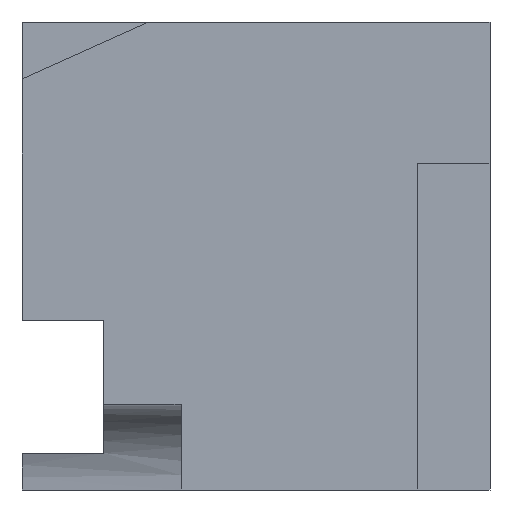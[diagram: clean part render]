
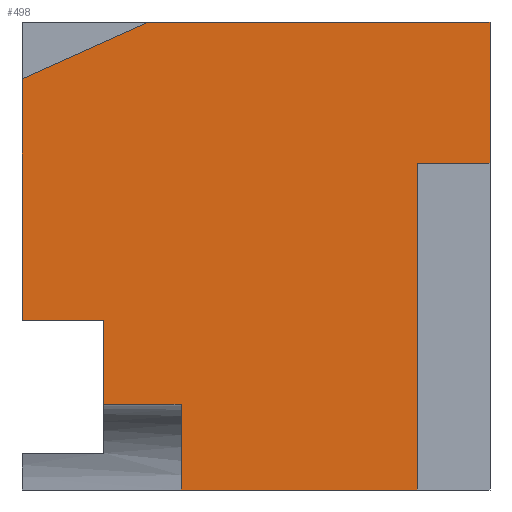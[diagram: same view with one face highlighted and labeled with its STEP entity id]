
A CAD part, front view. The second image highlights one B-rep face of the part: STEP entity #498.
In plain terms, the highlighted planar face has unit normal (0, -1, 0).
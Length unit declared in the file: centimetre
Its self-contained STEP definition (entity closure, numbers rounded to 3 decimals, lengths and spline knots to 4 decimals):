
#1 = VECTOR ( 'NONE', #620, 100. ) ;
#2 = EDGE_CURVE ( 'NONE', #341, #141, #22, .T. ) ;
#9 = ORIENTED_EDGE ( 'NONE', *, *, #384, .F. ) ;
#13 = VECTOR ( 'NONE', #190, 100. ) ;
#14 = VERTEX_POINT ( 'NONE', #75 ) ;
#22 = LINE ( 'NONE', #581, #372 ) ;
#25 = CARTESIAN_POINT ( 'NONE',  ( 0., 0., 362.3125 ) ) ;
#32 = VERTEX_POINT ( 'NONE', #270 ) ;
#35 = DIRECTION ( 'NONE',  ( 0., 1., 0. ) ) ;
#39 = EDGE_CURVE ( 'NONE', #518, #94, #323, .T. ) ;
#42 = ORIENTED_EDGE ( 'NONE', *, *, #39, .T. ) ;
#75 = CARTESIAN_POINT ( 'NONE',  ( 844.9066, 0., 0. ) ) ;
#78 = FACE_OUTER_BOUND ( 'NONE', #406, .T. ) ;
#94 = VERTEX_POINT ( 'NONE', #25 ) ;
#98 = DIRECTION ( 'NONE',  ( 0., 0., 1. ) ) ;
#99 = EDGE_CURVE ( 'NONE', #141, #398, #614, .T. ) ;
#101 = EDGE_CURVE ( 'NONE', #202, #398, #535, .T. ) ;
#102 = CARTESIAN_POINT ( 'NONE',  ( 1000., 0., 698.4609 ) ) ;
#113 = VECTOR ( 'NONE', #173, 100. ) ;
#117 = VECTOR ( 'NONE', #508, 100. ) ;
#119 = DIRECTION ( 'NONE',  ( -1., 0., 0. ) ) ;
#124 = CARTESIAN_POINT ( 'NONE',  ( 0., 0., 1000. ) ) ;
#130 = VECTOR ( 'NONE', #319, 100. ) ;
#135 = LINE ( 'NONE', #217, #113 ) ;
#138 = ORIENTED_EDGE ( 'NONE', *, *, #101, .F. ) ;
#139 = EDGE_CURVE ( 'NONE', #518, #431, #635, .T. ) ;
#141 = VERTEX_POINT ( 'NONE', #251 ) ;
#145 = LINE ( 'NONE', #428, #13 ) ;
#149 = DIRECTION ( 'NONE',  ( 1., 0., 0. ) ) ;
#151 = EDGE_CURVE ( 'NONE', #431, #554, #586, .T. ) ;
#163 = CARTESIAN_POINT ( 'NONE',  ( 174.1742, 0., 362.3125 ) ) ;
#167 = CARTESIAN_POINT ( 'NONE',  ( 1000., 0., 1000. ) ) ;
#170 = ORIENTED_EDGE ( 'NONE', *, *, #559, .T. ) ;
#173 = DIRECTION ( 'NONE',  ( 0., 0., -1. ) ) ;
#185 = LINE ( 'NONE', #609, #474 ) ;
#190 = DIRECTION ( 'NONE',  ( 1., 0., 0. ) ) ;
#200 = CARTESIAN_POINT ( 'NONE',  ( 339.8368, 0., 1000. ) ) ;
#202 = VERTEX_POINT ( 'NONE', #290 ) ;
#212 = VECTOR ( 'NONE', #149, 100. ) ;
#216 = ORIENTED_EDGE ( 'NONE', *, *, #99, .T. ) ;
#217 = CARTESIAN_POINT ( 'NONE',  ( 844.9066, 0., 698.4609 ) ) ;
#241 = CARTESIAN_POINT ( 'NONE',  ( 339.8368, 0., 182.704 ) ) ;
#244 = ORIENTED_EDGE ( 'NONE', *, *, #569, .T. ) ;
#250 = CARTESIAN_POINT ( 'NONE',  ( 1000., 0., 1000. ) ) ;
#251 = CARTESIAN_POINT ( 'NONE',  ( 174.1742, 0., 182.704 ) ) ;
#265 = ORIENTED_EDGE ( 'NONE', *, *, #621, .F. ) ;
#268 = CARTESIAN_POINT ( 'NONE',  ( 0., 0., 878.6248 ) ) ;
#270 = CARTESIAN_POINT ( 'NONE',  ( 844.9066, 0., 698.4609 ) ) ;
#282 = EDGE_CURVE ( 'NONE', #554, #336, #449, .T. ) ;
#290 = CARTESIAN_POINT ( 'NONE',  ( 339.8368, 0., 0. ) ) ;
#292 = CARTESIAN_POINT ( 'NONE',  ( 0., 0., 0. ) ) ;
#296 = ORIENTED_EDGE ( 'NONE', *, *, #139, .F. ) ;
#310 = AXIS2_PLACEMENT_3D ( 'NONE', #527, #35, #563 ) ;
#319 = DIRECTION ( 'NONE',  ( 0., 0., -1. ) ) ;
#322 = PLANE ( 'NONE',  #310 ) ;
#323 = LINE ( 'NONE', #124, #130 ) ;
#331 = LINE ( 'NONE', #292, #1 ) ;
#336 = VERTEX_POINT ( 'NONE', #102 ) ;
#341 = VERTEX_POINT ( 'NONE', #163 ) ;
#363 = CARTESIAN_POINT ( 'NONE',  ( 339.8368, 0., 182.704 ) ) ;
#367 = DIRECTION ( 'NONE',  ( 0., 0., -1. ) ) ;
#372 = VECTOR ( 'NONE', #367, 100. ) ;
#383 = VECTOR ( 'NONE', #98, 100. ) ;
#384 = EDGE_CURVE ( 'NONE', #336, #32, #185, .T. ) ;
#398 = VERTEX_POINT ( 'NONE', #363 ) ;
#406 = EDGE_LOOP ( 'NONE', ( #244, #496, #216, #138, #170, #265, #9, #448, #590, #296, #42 ) ) ;
#414 = CARTESIAN_POINT ( 'NONE',  ( 271.0632, 0., 1000. ) ) ;
#428 = CARTESIAN_POINT ( 'NONE',  ( 0., 0., 362.3125 ) ) ;
#431 = VERTEX_POINT ( 'NONE', #414 ) ;
#448 = ORIENTED_EDGE ( 'NONE', *, *, #282, .F. ) ;
#449 = LINE ( 'NONE', #167, #117 ) ;
#474 = VECTOR ( 'NONE', #119, 100. ) ;
#487 = CARTESIAN_POINT ( 'NONE',  ( 0., 0., 878.6248 ) ) ;
#490 = VECTOR ( 'NONE', #491, 100. ) ;
#491 = DIRECTION ( 'NONE',  ( 0.913, 0., 0.409 ) ) ;
#496 = ORIENTED_EDGE ( 'NONE', *, *, #2, .T. ) ;
#498 = ADVANCED_FACE ( 'NONE', ( #78 ), #322, .F. ) ;
#508 = DIRECTION ( 'NONE',  ( 0., 0., -1. ) ) ;
#518 = VERTEX_POINT ( 'NONE', #268 ) ;
#527 = CARTESIAN_POINT ( 'NONE',  ( 0., 0., 1000. ) ) ;
#533 = VECTOR ( 'NONE', #591, 100. ) ;
#535 = LINE ( 'NONE', #200, #383 ) ;
#554 = VERTEX_POINT ( 'NONE', #250 ) ;
#559 = EDGE_CURVE ( 'NONE', #202, #14, #331, .T. ) ;
#563 = DIRECTION ( 'NONE',  ( 0., 0., 1. ) ) ;
#569 = EDGE_CURVE ( 'NONE', #94, #341, #145, .T. ) ;
#581 = CARTESIAN_POINT ( 'NONE',  ( 174.1742, 0., 78.9097 ) ) ;
#584 = CARTESIAN_POINT ( 'NONE',  ( 0., 0., 1000. ) ) ;
#586 = LINE ( 'NONE', #584, #212 ) ;
#590 = ORIENTED_EDGE ( 'NONE', *, *, #151, .F. ) ;
#591 = DIRECTION ( 'NONE',  ( 1., 0., 0. ) ) ;
#609 = CARTESIAN_POINT ( 'NONE',  ( 844.9066, 0., 698.4609 ) ) ;
#614 = LINE ( 'NONE', #241, #533 ) ;
#620 = DIRECTION ( 'NONE',  ( 1., 0., 0. ) ) ;
#621 = EDGE_CURVE ( 'NONE', #32, #14, #135, .T. ) ;
#635 = LINE ( 'NONE', #487, #490 ) ;
